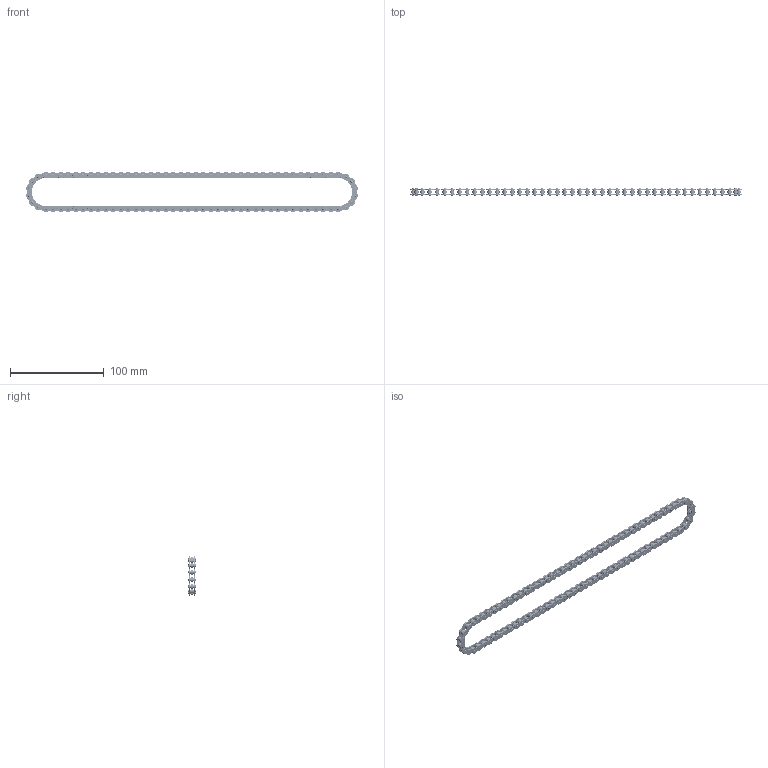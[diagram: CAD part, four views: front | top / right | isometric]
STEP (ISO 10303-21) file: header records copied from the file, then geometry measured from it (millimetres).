
FILE_DESCRIPTION(/* description */ (''),/* implementation_level */ '2;1');
FILE_NAME(/* name */ '3315-0008-0092 Loop.step',/* time_stamp */ '2024-03-20T13:51:56-05:00',/* author */ (''),/* organization */ (''),/* preprocessor_version */ 'ST-DEVELOPER v20',/* originating_system */ 'Autodesk Translation Framework v12.20.1.177',/* authorisation */ '');
FILE_SCHEMA (('AUTOMOTIVE_DESIGN { 1 0 10303 214 3 1 1 }'));
Length unit declared in the file: millimetre
Products named in the file (7): 3315-0008-0092 Loop; Arc_A; Arc_B; Length_A; Length_B; OUT; IN
Assembly tree (96 placements, depth 3):
  3315-0008-0092 Loop
    Arc_A
      OUT  x3
      IN  x4
    Arc_B
      OUT  x3
      IN  x4
    Length_A
      OUT  x20
      IN  x19
    Length_B
      OUT  x20
      IN  x19
Bounding box: 353.93 x 7.65 x 42.83 mm (x, y, z)
Volume: 17127.5 mm3; surface area: 56316.4 mm2
Topology: 460 solids, 460 shells, 7866 faces, 17710 edges, 10166 vertices
Faces by surface type: bspline 2622, torus 2024, cylinder 1932, plane 1288
Full cylindrical faces by diameter (mm): 2.35 x276, 2.36 x92, 2.98 x92, 3 x276, 4.92 x92
Entity records: 7427 total; most frequent: CARTESIAN_POINT 3299, DIRECTION 892, ORIENTED_EDGE 692, AXIS2_PLACEMENT_3D 421, EDGE_CURVE 346, VERTEX_POINT 208, CIRCLE 204, EDGE_LOOP 182
